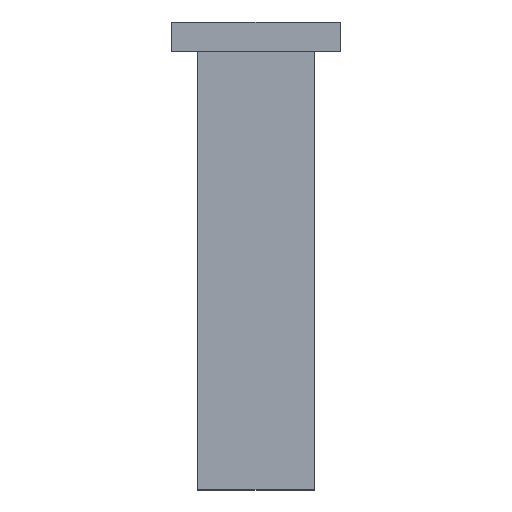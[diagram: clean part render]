
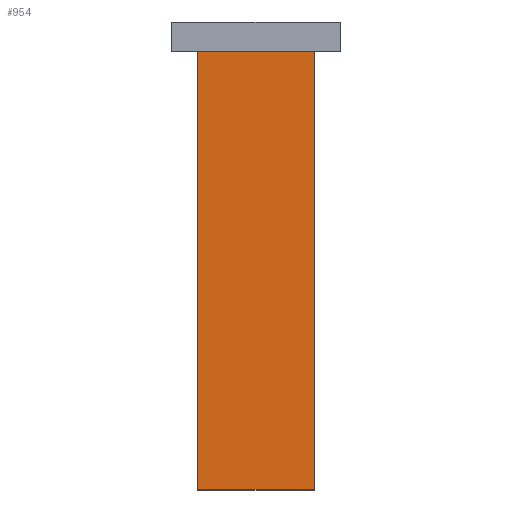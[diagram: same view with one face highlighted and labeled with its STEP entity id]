
A CAD part, top view. The second image highlights one B-rep face of the part: STEP entity #954.
In plain terms, the highlighted planar face has unit normal (0, 0, 1).
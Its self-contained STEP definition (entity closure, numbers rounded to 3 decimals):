
#72 = PLANE('',#73);
#73 = AXIS2_PLACEMENT_3D('',#74,#75,#76);
#74 = CARTESIAN_POINT('',(14.5,141.5,95.5));
#75 = DIRECTION('',(0.,1.,0.));
#76 = DIRECTION('',(0.,0.,-1.));
#443 = VERTEX_POINT('',#444);
#444 = CARTESIAN_POINT('',(10.,141.5,48.5));
#458 = PLANE('',#459);
#459 = AXIS2_PLACEMENT_3D('',#460,#461,#462);
#460 = CARTESIAN_POINT('',(10.,69.,48.5));
#461 = DIRECTION('',(-1.,0.,0.));
#462 = DIRECTION('',(0.,1.,0.));
#470 = EDGE_CURVE('',#443,#471,#473,.T.);
#471 = VERTEX_POINT('',#472);
#472 = CARTESIAN_POINT('',(-10.,141.5,48.5));
#473 = SURFACE_CURVE('',#474,(#478,#485),.PCURVE_S1.);
#474 = LINE('',#475,#476);
#475 = CARTESIAN_POINT('',(10.,141.5,48.5));
#476 = VECTOR('',#477,1.);
#477 = DIRECTION('',(-1.,0.,0.));
#478 = PCURVE('',#72,#479);
#479 = DEFINITIONAL_REPRESENTATION('',(#480),#484);
#480 = LINE('',#481,#482);
#481 = CARTESIAN_POINT('',(47.,4.5));
#482 = VECTOR('',#483,1.);
#483 = DIRECTION('',(0.,1.));
#484 = ( GEOMETRIC_REPRESENTATION_CONTEXT(2) 
PARAMETRIC_REPRESENTATION_CONTEXT() REPRESENTATION_CONTEXT('2D SPACE',''
  ) );
#485 = PCURVE('',#486,#491);
#486 = PLANE('',#487);
#487 = AXIS2_PLACEMENT_3D('',#488,#489,#490);
#488 = CARTESIAN_POINT('',(10.,69.,48.5));
#489 = DIRECTION('',(0.,0.,-1.));
#490 = DIRECTION('',(0.,1.,0.));
#491 = DEFINITIONAL_REPRESENTATION('',(#492),#496);
#492 = LINE('',#493,#494);
#493 = CARTESIAN_POINT('',(72.5,0.));
#494 = VECTOR('',#495,1.);
#495 = DIRECTION('',(0.,-1.));
#496 = ( GEOMETRIC_REPRESENTATION_CONTEXT(2) 
PARAMETRIC_REPRESENTATION_CONTEXT() REPRESENTATION_CONTEXT('2D SPACE',''
  ) );
#514 = PLANE('',#515);
#515 = AXIS2_PLACEMENT_3D('',#516,#517,#518);
#516 = CARTESIAN_POINT('',(-10.,69.,48.5));
#517 = DIRECTION('',(-1.,0.,0.));
#518 = DIRECTION('',(0.,1.,0.));
#906 = VERTEX_POINT('',#907);
#907 = CARTESIAN_POINT('',(-10.,66.,48.5));
#921 = PLANE('',#922);
#922 = AXIS2_PLACEMENT_3D('',#923,#924,#925);
#923 = CARTESIAN_POINT('',(10.,66.,48.5));
#924 = DIRECTION('',(0.,1.,0.));
#925 = DIRECTION('',(0.,0.,-1.));
#933 = EDGE_CURVE('',#906,#471,#934,.T.);
#934 = SURFACE_CURVE('',#935,(#939,#946),.PCURVE_S1.);
#935 = LINE('',#936,#937);
#936 = CARTESIAN_POINT('',(-10.,66.,48.5));
#937 = VECTOR('',#938,1.);
#938 = DIRECTION('',(0.,1.,0.));
#939 = PCURVE('',#514,#940);
#940 = DEFINITIONAL_REPRESENTATION('',(#941),#945);
#941 = LINE('',#942,#943);
#942 = CARTESIAN_POINT('',(-3.,0.));
#943 = VECTOR('',#944,1.);
#944 = DIRECTION('',(1.,0.));
#945 = ( GEOMETRIC_REPRESENTATION_CONTEXT(2) 
PARAMETRIC_REPRESENTATION_CONTEXT() REPRESENTATION_CONTEXT('2D SPACE',''
  ) );
#946 = PCURVE('',#486,#947);
#947 = DEFINITIONAL_REPRESENTATION('',(#948),#952);
#948 = LINE('',#949,#950);
#949 = CARTESIAN_POINT('',(-3.,-20.));
#950 = VECTOR('',#951,1.);
#951 = DIRECTION('',(1.,0.));
#952 = ( GEOMETRIC_REPRESENTATION_CONTEXT(2) 
PARAMETRIC_REPRESENTATION_CONTEXT() REPRESENTATION_CONTEXT('2D SPACE',''
  ) );
#954 = ADVANCED_FACE('',(#955),#486,.F.);
#955 = FACE_BOUND('',#956,.F.);
#956 = EDGE_LOOP('',(#957,#980,#1001,#1002));
#957 = ORIENTED_EDGE('',*,*,#958,.F.);
#958 = EDGE_CURVE('',#959,#443,#961,.T.);
#959 = VERTEX_POINT('',#960);
#960 = CARTESIAN_POINT('',(10.,66.,48.5));
#961 = SURFACE_CURVE('',#962,(#966,#973),.PCURVE_S1.);
#962 = LINE('',#963,#964);
#963 = CARTESIAN_POINT('',(10.,66.,48.5));
#964 = VECTOR('',#965,1.);
#965 = DIRECTION('',(0.,1.,0.));
#966 = PCURVE('',#486,#967);
#967 = DEFINITIONAL_REPRESENTATION('',(#968),#972);
#968 = LINE('',#969,#970);
#969 = CARTESIAN_POINT('',(-3.,0.));
#970 = VECTOR('',#971,1.);
#971 = DIRECTION('',(1.,0.));
#972 = ( GEOMETRIC_REPRESENTATION_CONTEXT(2) 
PARAMETRIC_REPRESENTATION_CONTEXT() REPRESENTATION_CONTEXT('2D SPACE',''
  ) );
#973 = PCURVE('',#458,#974);
#974 = DEFINITIONAL_REPRESENTATION('',(#975),#979);
#975 = LINE('',#976,#977);
#976 = CARTESIAN_POINT('',(-3.,0.));
#977 = VECTOR('',#978,1.);
#978 = DIRECTION('',(1.,0.));
#979 = ( GEOMETRIC_REPRESENTATION_CONTEXT(2) 
PARAMETRIC_REPRESENTATION_CONTEXT() REPRESENTATION_CONTEXT('2D SPACE',''
  ) );
#980 = ORIENTED_EDGE('',*,*,#981,.T.);
#981 = EDGE_CURVE('',#959,#906,#982,.T.);
#982 = SURFACE_CURVE('',#983,(#987,#994),.PCURVE_S1.);
#983 = LINE('',#984,#985);
#984 = CARTESIAN_POINT('',(10.,66.,48.5));
#985 = VECTOR('',#986,1.);
#986 = DIRECTION('',(-1.,0.,0.));
#987 = PCURVE('',#486,#988);
#988 = DEFINITIONAL_REPRESENTATION('',(#989),#993);
#989 = LINE('',#990,#991);
#990 = CARTESIAN_POINT('',(-3.,0.));
#991 = VECTOR('',#992,1.);
#992 = DIRECTION('',(0.,-1.));
#993 = ( GEOMETRIC_REPRESENTATION_CONTEXT(2) 
PARAMETRIC_REPRESENTATION_CONTEXT() REPRESENTATION_CONTEXT('2D SPACE',''
  ) );
#994 = PCURVE('',#921,#995);
#995 = DEFINITIONAL_REPRESENTATION('',(#996),#1000);
#996 = LINE('',#997,#998);
#997 = CARTESIAN_POINT('',(0.,0.));
#998 = VECTOR('',#999,1.);
#999 = DIRECTION('',(0.,1.));
#1000 = ( GEOMETRIC_REPRESENTATION_CONTEXT(2) 
PARAMETRIC_REPRESENTATION_CONTEXT() REPRESENTATION_CONTEXT('2D SPACE',''
  ) );
#1001 = ORIENTED_EDGE('',*,*,#933,.T.);
#1002 = ORIENTED_EDGE('',*,*,#470,.F.);
